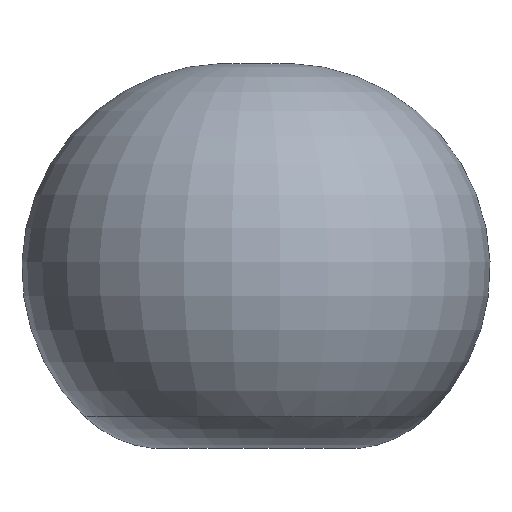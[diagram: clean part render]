
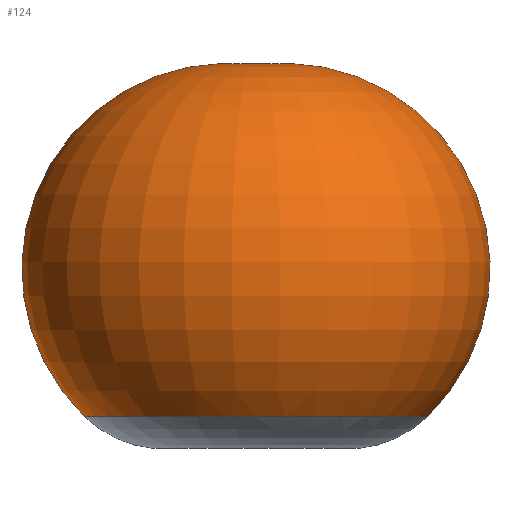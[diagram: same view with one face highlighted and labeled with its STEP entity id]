
A CAD part, front view. The second image highlights one B-rep face of the part: STEP entity #124.
In plain terms, the highlighted toroidal (fillet/blend) face has major radius 150 mm and minor radius 1075 mm.
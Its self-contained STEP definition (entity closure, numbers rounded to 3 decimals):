
#2 = ORIENTED_EDGE ( 'NONE', *, *, #7, .T. ) ;
#3 = DIRECTION ( 'NONE',  ( 0., 0., 1. ) ) ;
#7 = EDGE_CURVE ( 'NONE', #116, #40, #31, .T. ) ;
#23 = CARTESIAN_POINT ( 'NONE',  ( -896.758, 0., -286.79 ) ) ;
#28 = CIRCLE ( 'NONE', #78, 1075. ) ;
#29 = CARTESIAN_POINT ( 'NONE',  ( 150., 0., 486.5 ) ) ;
#30 = AXIS2_PLACEMENT_3D ( 'NONE', #147, #96, #63 ) ;
#31 = CIRCLE ( 'NONE', #127, 1075. ) ;
#38 = AXIS2_PLACEMENT_3D ( 'NONE', #48, #3, #100 ) ;
#40 = VERTEX_POINT ( 'NONE', #137 ) ;
#43 = EDGE_CURVE ( 'NONE', #164, #40, #28, .T. ) ;
#44 = FACE_OUTER_BOUND ( 'NONE', #153, .T. ) ;
#48 = CARTESIAN_POINT ( 'NONE',  ( 0., 0., -286.79 ) ) ;
#63 = DIRECTION ( 'NONE',  ( 1., 0., 0. ) ) ;
#66 = CIRCLE ( 'NONE', #38, 896.758 ) ;
#69 = CARTESIAN_POINT ( 'NONE',  ( -150., 0., 486.5 ) ) ;
#78 = AXIS2_PLACEMENT_3D ( 'NONE', #69, #79, #140 ) ;
#79 = DIRECTION ( 'NONE',  ( 0., 1., 0. ) ) ;
#96 = DIRECTION ( 'NONE',  ( 0., 0., 1. ) ) ;
#97 = CARTESIAN_POINT ( 'NONE',  ( 896.758, 0., -286.79 ) ) ;
#100 = DIRECTION ( 'NONE',  ( 1., 0., 0. ) ) ;
#105 = EDGE_CURVE ( 'NONE', #164, #116, #66, .T. ) ;
#116 = VERTEX_POINT ( 'NONE', #97 ) ;
#118 = DIRECTION ( 'NONE',  ( 0., -1., 0. ) ) ;
#124 = ADVANCED_FACE ( 'NONE', ( #44 ), #142, .T. ) ;
#127 = AXIS2_PLACEMENT_3D ( 'NONE', #29, #118, #165 ) ;
#129 = ORIENTED_EDGE ( 'NONE', *, *, #105, .T. ) ;
#135 = ORIENTED_EDGE ( 'NONE', *, *, #43, .F. ) ;
#137 = CARTESIAN_POINT ( 'NONE',  ( 0., 0., 1550.983 ) ) ;
#140 = DIRECTION ( 'NONE',  ( -1., 0., 0. ) ) ;
#142 = TOROIDAL_SURFACE ( 'NONE', #30, 150., 1075. ) ;
#147 = CARTESIAN_POINT ( 'NONE',  ( 0., 0., 486.5 ) ) ;
#153 = EDGE_LOOP ( 'NONE', ( #135, #129, #2 ) ) ;
#164 = VERTEX_POINT ( 'NONE', #23 ) ;
#165 = DIRECTION ( 'NONE',  ( 0., 0., -1. ) ) ;
